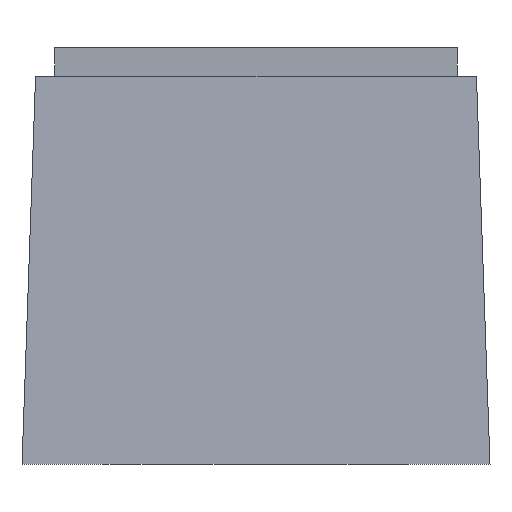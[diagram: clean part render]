
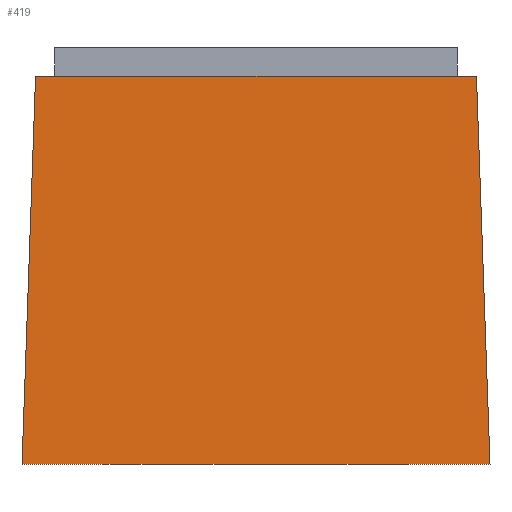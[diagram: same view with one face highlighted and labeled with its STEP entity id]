
A CAD part, left-side view. The second image highlights one B-rep face of the part: STEP entity #419.
In plain terms, the highlighted planar face has unit normal (-0.999, 0, 0.035).
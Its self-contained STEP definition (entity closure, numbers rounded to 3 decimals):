
#13 = VERTEX_POINT ( 'NONE', #472 ) ;
#22 = CARTESIAN_POINT ( 'NONE',  ( -9.374, -9.374, 16.5 ) ) ;
#68 = ORIENTED_EDGE ( 'NONE', *, *, #480, .T. ) ;
#74 = PLANE ( 'NONE',  #234 ) ;
#96 = ORIENTED_EDGE ( 'NONE', *, *, #495, .T. ) ;
#113 = LINE ( 'NONE', #189, #304 ) ;
#166 = VECTOR ( 'NONE', #313, 1000. ) ;
#168 = EDGE_CURVE ( 'NONE', #323, #571, #351, .T. ) ;
#170 = ORIENTED_EDGE ( 'NONE', *, *, #168, .T. ) ;
#189 = CARTESIAN_POINT ( 'NONE',  ( -9.374, 9.95, 16.5 ) ) ;
#200 = ORIENTED_EDGE ( 'NONE', *, *, #295, .T. ) ;
#202 = DIRECTION ( 'NONE',  ( -0.999, 0., 0.035 ) ) ;
#234 = AXIS2_PLACEMENT_3D ( 'NONE', #551, #202, #424 ) ;
#242 = LINE ( 'NONE', #508, #444 ) ;
#271 = CARTESIAN_POINT ( 'NONE',  ( -9.95, 9.95, 0. ) ) ;
#295 = EDGE_CURVE ( 'NONE', #13, #323, #524, .T. ) ;
#303 = CARTESIAN_POINT ( 'NONE',  ( -9.374, 9.374, 16.5 ) ) ;
#304 = VECTOR ( 'NONE', #540, 1000. ) ;
#313 = DIRECTION ( 'NONE',  ( 0., -1., 0. ) ) ;
#323 = VERTEX_POINT ( 'NONE', #271 ) ;
#351 = LINE ( 'NONE', #531, #166 ) ;
#365 = FACE_OUTER_BOUND ( 'NONE', #453, .T. ) ;
#392 = VERTEX_POINT ( 'NONE', #22 ) ;
#419 = ADVANCED_FACE ( 'NONE', ( #365 ), #74, .T. ) ;
#424 = DIRECTION ( 'NONE',  ( 0.035, 0., 0.999 ) ) ;
#444 = VECTOR ( 'NONE', #498, 1000. ) ;
#453 = EDGE_LOOP ( 'NONE', ( #96, #200, #170, #68 ) ) ;
#472 = CARTESIAN_POINT ( 'NONE',  ( -9.374, 9.374, 16.5 ) ) ;
#478 = CARTESIAN_POINT ( 'NONE',  ( -9.95, -9.95, 0. ) ) ;
#480 = EDGE_CURVE ( 'NONE', #571, #392, #242, .T. ) ;
#485 = DIRECTION ( 'NONE',  ( -0.035, 0.035, -0.999 ) ) ;
#495 = EDGE_CURVE ( 'NONE', #392, #13, #113, .T. ) ;
#498 = DIRECTION ( 'NONE',  ( 0.035, 0.035, 0.999 ) ) ;
#508 = CARTESIAN_POINT ( 'NONE',  ( -9.95, -9.95, 0. ) ) ;
#518 = VECTOR ( 'NONE', #485, 1000. ) ;
#524 = LINE ( 'NONE', #303, #518 ) ;
#531 = CARTESIAN_POINT ( 'NONE',  ( -9.95, 0., 0. ) ) ;
#540 = DIRECTION ( 'NONE',  ( 0., 1., 0. ) ) ;
#551 = CARTESIAN_POINT ( 'NONE',  ( -9.95, 9.95, 0. ) ) ;
#571 = VERTEX_POINT ( 'NONE', #478 ) ;
